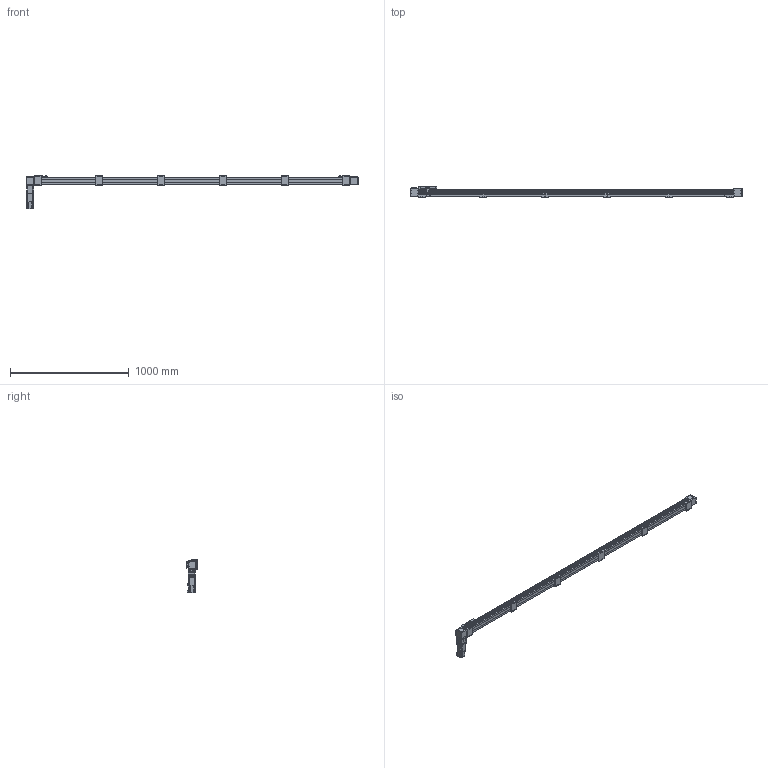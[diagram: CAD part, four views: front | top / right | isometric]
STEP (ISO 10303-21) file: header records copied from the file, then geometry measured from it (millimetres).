
FILE_DESCRIPTION(/* description */ ('STEP AP214'),/* implementation_level */ '2;1');
FILE_NAME(/* name */ 'SK60-P13-S2500-BR-T40-C1-N(0)',/* time_stamp */ '2023-04-06T04:03:06+02:00',/* author */ ('License CC BY-ND 4.0'),/* organization */ ('CADENAS'),/* preprocessor_version */ 'ST-DEVELOPER v19.3',/* originating_system */ 'PARTsolutions',/* authorisation */ ' ');
FILE_SCHEMA (('AUTOMOTIVE_DESIGN {1 0 10303 214 3 1 1}'));
Length unit declared in the file: millimetre
Products named in the file (11): SK60-P13-S2500-BR-T40-C1-N(0); PSC140-sensor; SK60-S450_seat; SK60-S450-BL-C1_slider; SK60_body3; SK60_body6; SK60-BL_body2; T40-p1; SK60_body5; SK60_body4; SK60-S2500-BR-C1_body
Assembly tree (21 placements, depth 2):
  SK60-P13-S2500-BR-T40-C1-N(0)
    PSC140-sensor  x3
    SK60-S450_seat  x6
    SK60-S450-BL-C1_slider
    SK60_body3  x3
    SK60_body6  x2
    SK60-BL_body2  x2
    T40-p1
    SK60_body5
    SK60_body4
    SK60-S2500-BR-C1_body
Bounding box: 2800 x 90 x 279.1 mm (x, y, z)
Volume: 10157572.8 mm3; surface area: 1248692.3 mm2
Topology: 21 solids, 25 shells, 1010 faces, 2501 edges, 1650 vertices
Faces by surface type: plane 640, cylinder 330, cone 38, torus 2
Full cylindrical faces by diameter (mm): 2.8 x3, 3.3 x4, 4.2 x8, 4.5 x26, 4.6 x3, 4.917 x32, 5 x2, 5.478 x4, 5.5 x35, 6.5 x12, 8 x4, 8.5 x4, 9.988 x4, 10 x24, 13.556 x1, 14 x1, 14.586 x1, 19.692 x1, 38.432 x2, 43 x1, 44 x3, 47 x2, 50 x2
Entity records: 19403 total; most frequent: DIRECTION 3300, CARTESIAN_POINT 3293, ORIENTED_EDGE 3050, EDGE_CURVE 1525, AXIS2_PLACEMENT_3D 1104, LINE 1092, VECTOR 1092, VERTEX_POINT 1077
